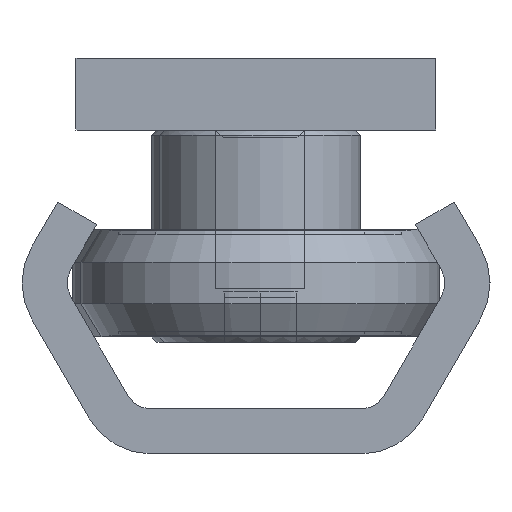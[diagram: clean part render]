
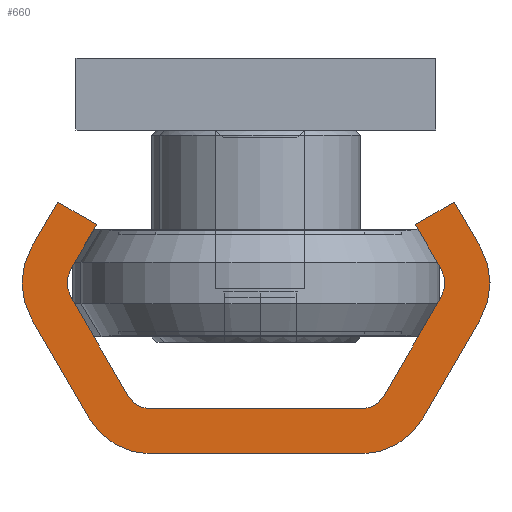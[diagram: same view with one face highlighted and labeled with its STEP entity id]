
A CAD part, left-side view. The second image highlights one B-rep face of the part: STEP entity #660.
In plain terms, the highlighted planar face has unit normal (-1, 0, 0).
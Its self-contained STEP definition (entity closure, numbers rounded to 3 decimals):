
#660 = ADVANCED_FACE( '', ( #1447 ), #1448, .F. );
#1447 = FACE_OUTER_BOUND( '', #2371, .T. );
#1448 = PLANE( '', #2372 );
#2371 = EDGE_LOOP( '', ( #3739, #3740, #3741, #3742, #3743, #3744, #3745, #3746, #3747, #3748, #3749, #3750, #3751, #3752, #3753, #3754, #3755, #3756, #3757, #3758 ) );
#2372 = AXIS2_PLACEMENT_3D( '', #3759, #3760, #3761 );
#3739 = ORIENTED_EDGE( '', *, *, #4124, .F. );
#3740 = ORIENTED_EDGE( '', *, *, #4479, .F. );
#3741 = ORIENTED_EDGE( '', *, *, #4480, .F. );
#3742 = ORIENTED_EDGE( '', *, *, #3999, .F. );
#3743 = ORIENTED_EDGE( '', *, *, #4169, .F. );
#3744 = ORIENTED_EDGE( '', *, *, #4380, .F. );
#3745 = ORIENTED_EDGE( '', *, *, #4458, .F. );
#3746 = ORIENTED_EDGE( '', *, *, #4246, .T. );
#3747 = ORIENTED_EDGE( '', *, *, #4397, .F. );
#3748 = ORIENTED_EDGE( '', *, *, #4016, .T. );
#3749 = ORIENTED_EDGE( '', *, *, #4426, .F. );
#3750 = ORIENTED_EDGE( '', *, *, #3987, .T. );
#3751 = ORIENTED_EDGE( '', *, *, #4481, .F. );
#3752 = ORIENTED_EDGE( '', *, *, #4482, .T. );
#3753 = ORIENTED_EDGE( '', *, *, #4218, .F. );
#3754 = ORIENTED_EDGE( '', *, *, #4430, .F. );
#3755 = ORIENTED_EDGE( '', *, *, #4155, .F. );
#3756 = ORIENTED_EDGE( '', *, *, #4450, .F. );
#3757 = ORIENTED_EDGE( '', *, *, #4483, .F. );
#3758 = ORIENTED_EDGE( '', *, *, #4293, .F. );
#3759 = CARTESIAN_POINT( '', ( 0., -5.825, -4. ) );
#3760 = DIRECTION( '', ( 1., 0., 0. ) );
#3761 = DIRECTION( '', ( 0., 0., -1. ) );
#3987 = EDGE_CURVE( '', #4526, #4527, #4528, .T. );
#3999 = EDGE_CURVE( '', #4547, #4548, #4549, .T. );
#4016 = EDGE_CURVE( '', #4576, #4577, #4578, .T. );
#4124 = EDGE_CURVE( '', #4771, #4772, #4773, .T. );
#4155 = EDGE_CURVE( '', #4822, #4823, #4824, .T. );
#4169 = EDGE_CURVE( '', #4847, #4547, #4848, .T. );
#4218 = EDGE_CURVE( '', #4923, #4924, #4925, .T. );
#4246 = EDGE_CURVE( '', #4971, #4972, #4973, .T. );
#4293 = EDGE_CURVE( '', #4772, #5041, #5042, .T. );
#4380 = EDGE_CURVE( '', #5157, #4847, #5158, .T. );
#4397 = EDGE_CURVE( '', #4576, #4972, #5182, .T. );
#4426 = EDGE_CURVE( '', #4526, #4577, #5227, .T. );
#4430 = EDGE_CURVE( '', #4823, #4923, #5231, .T. );
#4450 = EDGE_CURVE( '', #5254, #4822, #5255, .T. );
#4458 = EDGE_CURVE( '', #4971, #5157, #5263, .T. );
#4479 = EDGE_CURVE( '', #5286, #4771, #5287, .T. );
#4480 = EDGE_CURVE( '', #4548, #5286, #5288, .T. );
#4481 = EDGE_CURVE( '', #5289, #4527, #5290, .T. );
#4482 = EDGE_CURVE( '', #5289, #4924, #5291, .T. );
#4483 = EDGE_CURVE( '', #5041, #5254, #5292, .T. );
#4526 = VERTEX_POINT( '', #5338 );
#4527 = VERTEX_POINT( '', #5339 );
#4528 = CIRCLE( '', #5340, 1.5 );
#4547 = VERTEX_POINT( '', #5363 );
#4548 = VERTEX_POINT( '', #5364 );
#4549 = CIRCLE( '', #5365, 4. );
#4576 = VERTEX_POINT( '', #5394 );
#4577 = VERTEX_POINT( '', #5395 );
#4578 = CIRCLE( '', #5396, 1.5 );
#4771 = VERTEX_POINT( '', #5596 );
#4772 = VERTEX_POINT( '', #5597 );
#4773 = LINE( '', #5598, #5599 );
#4822 = VERTEX_POINT( '', #5654 );
#4823 = VERTEX_POINT( '', #5655 );
#4824 = LINE( '', #5656, #5657 );
#4847 = VERTEX_POINT( '', #5689 );
#4848 = LINE( '', #5690, #5691 );
#4923 = VERTEX_POINT( '', #5778 );
#4924 = VERTEX_POINT( '', #5779 );
#4925 = LINE( '', #5780, #5781 );
#4971 = VERTEX_POINT( '', #5839 );
#4972 = VERTEX_POINT( '', #5840 );
#4973 = CIRCLE( '', #5841, 1.5 );
#5041 = VERTEX_POINT( '', #5928 );
#5042 = CIRCLE( '', #5929, 4. );
#5157 = VERTEX_POINT( '', #6072 );
#5158 = LINE( '', #6073, #6074 );
#5182 = LINE( '', #6103, #6104 );
#5227 = LINE( '', #6151, #6152 );
#5231 = LINE( '', #6156, #6157 );
#5254 = VERTEX_POINT( '', #6183 );
#5255 = CIRCLE( '', #6184, 4. );
#5263 = LINE( '', #6193, #6194 );
#5286 = VERTEX_POINT( '', #6220 );
#5287 = CIRCLE( '', #6221, 4. );
#5288 = LINE( '', #6222, #6223 );
#5289 = VERTEX_POINT( '', #6224 );
#5290 = LINE( '', #6225, #6226 );
#5291 = CIRCLE( '', #6227, 1.5 );
#5292 = LINE( '', #6228, #6229 );
#5338 = CARTESIAN_POINT( '', ( 0., -5.825, -2.5 ) );
#5339 = CARTESIAN_POINT( '', ( 0., -7.124, -3.25 ) );
#5340 = AXIS2_PLACEMENT_3D( '', #6277, #6278, #6279 );
#5363 = CARTESIAN_POINT( '', ( 0., 12.464, -11.5 ) );
#5364 = CARTESIAN_POINT( '', ( 0., 12.464, -7.5 ) );
#5365 = AXIS2_PLACEMENT_3D( '', #6296, #6297, #6298 );
#5394 = CARTESIAN_POINT( '', ( 0., 7.124, -3.25 ) );
#5395 = CARTESIAN_POINT( '', ( 0., 5.825, -2.5 ) );
#5396 = AXIS2_PLACEMENT_3D( '', #6328, #6329, #6330 );
#5596 = CARTESIAN_POINT( '', ( 0., 5.825, 0. ) );
#5597 = CARTESIAN_POINT( '', ( 0., -5.825, 0. ) );
#5598 = CARTESIAN_POINT( '', ( 0., 5.825, 0. ) );
#5599 = VECTOR( '', #6578, 1000. );
#5654 = CARTESIAN_POINT( '', ( 0., -12.464, -11.5 ) );
#5655 = CARTESIAN_POINT( '', ( 0., -11.021, -14. ) );
#5656 = CARTESIAN_POINT( '', ( 0., -12.464, -11.5 ) );
#5657 = VECTOR( '', #6633, 1000. );
#5689 = CARTESIAN_POINT( '', ( 0., 11.021, -14. ) );
#5690 = CARTESIAN_POINT( '', ( 0., 11.021, -14. ) );
#5691 = VECTOR( '', #6646, 1000. );
#5778 = CARTESIAN_POINT( '', ( 0., -8.856, -12.75 ) );
#5779 = CARTESIAN_POINT( '', ( 0., -10.299, -10.25 ) );
#5780 = CARTESIAN_POINT( '', ( 0., -8.856, -12.75 ) );
#5781 = VECTOR( '', #6716, 1000. );
#5839 = CARTESIAN_POINT( '', ( 0., 10.299, -10.25 ) );
#5840 = CARTESIAN_POINT( '', ( 0., 10.299, -8.75 ) );
#5841 = AXIS2_PLACEMENT_3D( '', #6753, #6754, #6755 );
#5928 = CARTESIAN_POINT( '', ( 0., -9.289, -2. ) );
#5929 = AXIS2_PLACEMENT_3D( '', #6808, #6809, #6810 );
#6072 = CARTESIAN_POINT( '', ( 0., 8.856, -12.75 ) );
#6073 = CARTESIAN_POINT( '', ( 0., 8.856, -12.75 ) );
#6074 = VECTOR( '', #6911, 1000. );
#6103 = CARTESIAN_POINT( '', ( 0., 7.124, -3.25 ) );
#6104 = VECTOR( '', #6932, 1000. );
#6151 = CARTESIAN_POINT( '', ( 0., -5.825, -2.5 ) );
#6152 = VECTOR( '', #6986, 1000. );
#6156 = CARTESIAN_POINT( '', ( 0., -11.021, -14. ) );
#6157 = VECTOR( '', #6987, 1000. );
#6183 = CARTESIAN_POINT( '', ( 0., -12.464, -7.5 ) );
#6184 = AXIS2_PLACEMENT_3D( '', #7006, #7007, #7008 );
#6193 = CARTESIAN_POINT( '', ( 0., 10.299, -10.25 ) );
#6194 = VECTOR( '', #7010, 1000. );
#6220 = CARTESIAN_POINT( '', ( 0., 9.289, -2. ) );
#6221 = AXIS2_PLACEMENT_3D( '', #7023, #7024, #7025 );
#6222 = CARTESIAN_POINT( '', ( 0., 12.464, -7.5 ) );
#6223 = VECTOR( '', #7026, 1000. );
#6224 = CARTESIAN_POINT( '', ( 0., -10.299, -8.75 ) );
#6225 = CARTESIAN_POINT( '', ( 0., -10.299, -8.75 ) );
#6226 = VECTOR( '', #7027, 1000. );
#6227 = AXIS2_PLACEMENT_3D( '', #7028, #7029, #7030 );
#6228 = CARTESIAN_POINT( '', ( 0., -9.289, -2. ) );
#6229 = VECTOR( '', #7031, 1000. );
#6277 = CARTESIAN_POINT( '', ( 0., -5.825, -4. ) );
#6278 = DIRECTION( '', ( 1., 0., 0. ) );
#6279 = DIRECTION( '', ( 0., 0., -1. ) );
#6296 = CARTESIAN_POINT( '', ( 0., 9., -9.5 ) );
#6297 = DIRECTION( '', ( 1., 0., 0. ) );
#6298 = DIRECTION( '', ( 0., 0., -1. ) );
#6328 = CARTESIAN_POINT( '', ( 0., 5.825, -4. ) );
#6329 = DIRECTION( '', ( 1., 0., 0. ) );
#6330 = DIRECTION( '', ( 0., 0., -1. ) );
#6578 = DIRECTION( '', ( 0., -1., 0. ) );
#6633 = DIRECTION( '', ( 0., 0.5, -0.866 ) );
#6646 = DIRECTION( '', ( 0., 0.5, 0.866 ) );
#6716 = DIRECTION( '', ( 0., -0.5, 0.866 ) );
#6753 = CARTESIAN_POINT( '', ( 0., 9., -9.5 ) );
#6754 = DIRECTION( '', ( 1., 0., 0. ) );
#6755 = DIRECTION( '', ( 0., 0., -1. ) );
#6808 = CARTESIAN_POINT( '', ( 0., -5.825, -4. ) );
#6809 = DIRECTION( '', ( 1., 0., 0. ) );
#6810 = DIRECTION( '', ( 0., 0., -1. ) );
#6911 = DIRECTION( '', ( 0., 0.866, -0.5 ) );
#6932 = DIRECTION( '', ( 0., 0.5, -0.866 ) );
#6986 = DIRECTION( '', ( 0., 1., 0. ) );
#6987 = DIRECTION( '', ( 0., 0.866, 0.5 ) );
#7006 = CARTESIAN_POINT( '', ( 0., -9., -9.5 ) );
#7007 = DIRECTION( '', ( 1., 0., 0. ) );
#7008 = DIRECTION( '', ( 0., 0., -1. ) );
#7010 = DIRECTION( '', ( 0., -0.5, -0.866 ) );
#7023 = CARTESIAN_POINT( '', ( 0., 5.825, -4. ) );
#7024 = DIRECTION( '', ( 1., 0., 0. ) );
#7025 = DIRECTION( '', ( 0., 0., -1. ) );
#7026 = DIRECTION( '', ( 0., -0.5, 0.866 ) );
#7027 = DIRECTION( '', ( 0., 0.5, 0.866 ) );
#7028 = CARTESIAN_POINT( '', ( 0., -9., -9.5 ) );
#7029 = DIRECTION( '', ( 1., 0., 0. ) );
#7030 = DIRECTION( '', ( 0., 0., -1. ) );
#7031 = DIRECTION( '', ( 0., -0.5, -0.866 ) );
